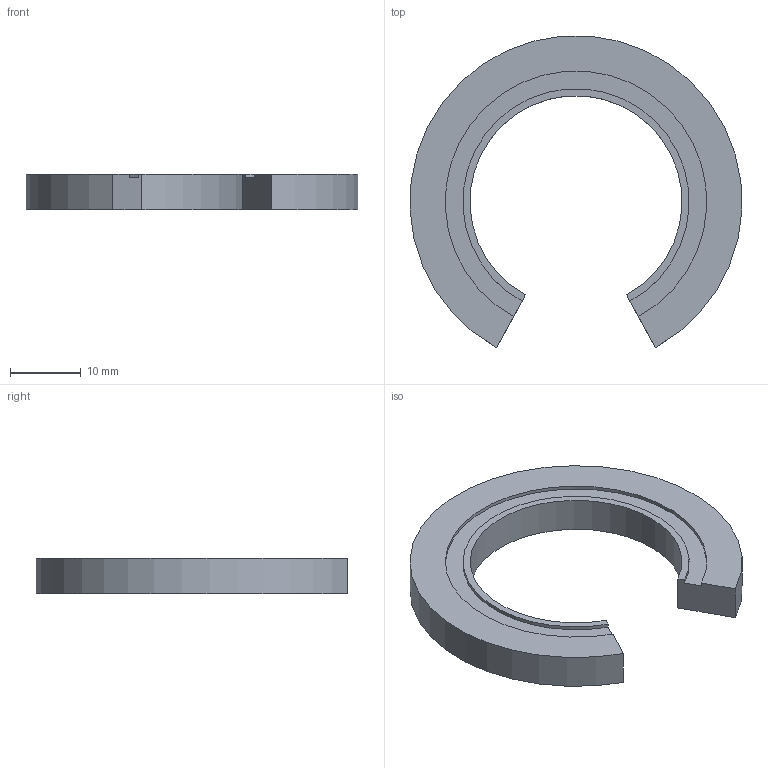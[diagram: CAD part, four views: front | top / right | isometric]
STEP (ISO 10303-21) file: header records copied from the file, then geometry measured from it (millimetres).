
FILE_DESCRIPTION(/* description */ (''),/* implementation_level */ '2;1');
FILE_NAME(/* name */ 'W:\WEBOVKY\Knecht\VD-OP\VD30-OP\VD30-OP.stp',/* time_stamp */ '2021-03-08T12:33:04+01:00',/* author */ ('mkorenek'),/* organization */ (''),/* preprocessor_version */ 'ST-DEVELOPER v18.1',/* originating_system */ 'Autodesk Inventor 2021',/* authorisation */ '');
FILE_SCHEMA (('AUTOMOTIVE_DESIGN { 1 0 10303 214 3 1 1 }'));
Length unit declared in the file: millimetre
Products named in the file (2): VD30-OP; VD16
Assembly tree (1 placements, depth 2):
  VD30-OP
    VD16
Bounding box: 46.94 x 44.07 x 5 mm (x, y, z)
Volume: 4212.5 mm3; surface area: 2922.3 mm2
Topology: 1 solids, 1 shells, 10 faces, 24 edges, 16 vertices
Faces by surface type: plane 6, cylinder 4
Entity records: 363 total; most frequent: DIRECTION 58, CARTESIAN_POINT 53, ORIENTED_EDGE 48, EDGE_CURVE 24, AXIS2_PLACEMENT_3D 21, LINE 16, VECTOR 16, VERTEX_POINT 16
